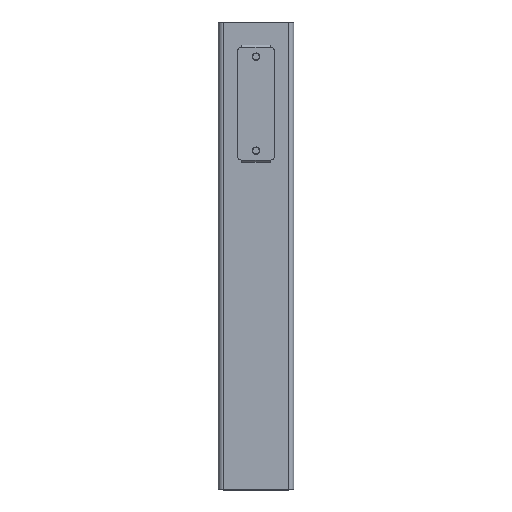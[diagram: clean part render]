
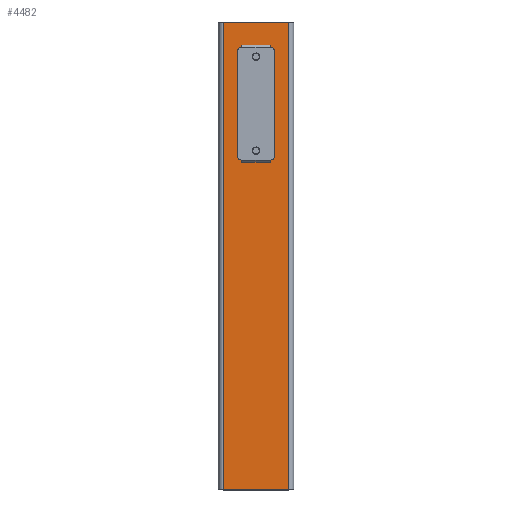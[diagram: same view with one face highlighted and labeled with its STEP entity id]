
A CAD part, top view. The second image highlights one B-rep face of the part: STEP entity #4482.
In plain terms, the highlighted planar face has unit normal (0, 0, 1).
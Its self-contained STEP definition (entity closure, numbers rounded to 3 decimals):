
#998=DIRECTION('',(-1.,0.,0.));
#999=VECTOR('',#998,70.);
#1000=CARTESIAN_POINT('',(35.,498.,25.));
#1001=LINE('',#1000,#999);
#1079=DIRECTION('',(0.,1.,0.));
#1080=VECTOR('',#1079,498.);
#1081=CARTESIAN_POINT('',(35.,0.,25.));
#1082=LINE('',#1081,#1080);
#1083=DIRECTION('',(-1.,0.,0.));
#1084=VECTOR('',#1083,70.);
#1085=CARTESIAN_POINT('',(35.,0.,25.));
#1086=LINE('',#1085,#1084);
#1107=DIRECTION('',(0.,-1.,0.));
#1108=VECTOR('',#1107,2.5);
#1109=CARTESIAN_POINT('',(-15.,351.,25.));
#1110=LINE('',#1109,#1108);
#1111=DIRECTION('',(1.,0.,0.));
#1112=VECTOR('',#1111,30.);
#1113=CARTESIAN_POINT('',(-15.,348.5,25.));
#1114=LINE('',#1113,#1112);
#1115=DIRECTION('',(0.,-1.,0.));
#1116=VECTOR('',#1115,2.5);
#1117=CARTESIAN_POINT('',(15.,351.,25.));
#1118=LINE('',#1117,#1116);
#1119=CARTESIAN_POINT('',(15.,356.,25.));
#1120=DIRECTION('',(0.,0.,1.));
#1121=DIRECTION('',(0.,-1.,0.));
#1122=AXIS2_PLACEMENT_3D('',#1119,#1120,#1121);
#1124=DIRECTION('',(0.,1.,0.));
#1125=VECTOR('',#1124,110.);
#1126=CARTESIAN_POINT('',(20.,356.,25.));
#1127=LINE('',#1126,#1125);
#1128=CARTESIAN_POINT('',(15.,466.,25.));
#1129=DIRECTION('',(0.,0.,1.));
#1130=DIRECTION('',(1.,0.,0.));
#1131=AXIS2_PLACEMENT_3D('',#1128,#1129,#1130);
#1133=DIRECTION('',(0.,1.,0.));
#1134=VECTOR('',#1133,2.5);
#1135=CARTESIAN_POINT('',(15.,471.,25.));
#1136=LINE('',#1135,#1134);
#1137=DIRECTION('',(-1.,0.,0.));
#1138=VECTOR('',#1137,30.);
#1139=CARTESIAN_POINT('',(15.,473.5,25.));
#1140=LINE('',#1139,#1138);
#1141=DIRECTION('',(0.,1.,0.));
#1142=VECTOR('',#1141,2.5);
#1143=CARTESIAN_POINT('',(-15.,471.,25.));
#1144=LINE('',#1143,#1142);
#1145=CARTESIAN_POINT('',(-15.,466.,25.));
#1146=DIRECTION('',(0.,0.,1.));
#1147=DIRECTION('',(0.,1.,0.));
#1148=AXIS2_PLACEMENT_3D('',#1145,#1146,#1147);
#1150=DIRECTION('',(0.,-1.,0.));
#1151=VECTOR('',#1150,110.);
#1152=CARTESIAN_POINT('',(-20.,466.,25.));
#1153=LINE('',#1152,#1151);
#1154=CARTESIAN_POINT('',(-15.,356.,25.));
#1155=DIRECTION('',(0.,0.,1.));
#1156=DIRECTION('',(-1.,0.,0.));
#1157=AXIS2_PLACEMENT_3D('',#1154,#1155,#1156);
#1260=DIRECTION('',(0.,1.,0.));
#1261=VECTOR('',#1260,498.);
#1262=CARTESIAN_POINT('',(-35.,0.,25.));
#1263=LINE('',#1262,#1261);
#2788=CARTESIAN_POINT('',(35.,0.,25.));
#2789=VERTEX_POINT('',#2788);
#2790=CARTESIAN_POINT('',(-35.,0.,25.));
#2792=VERTEX_POINT('',#2790);
#3200=CARTESIAN_POINT('',(35.,498.,25.));
#3201=VERTEX_POINT('',#3200);
#3202=CARTESIAN_POINT('',(-35.,498.,25.));
#3204=VERTEX_POINT('',#3202);
#3350=CARTESIAN_POINT('',(20.,356.,25.));
#3351=CARTESIAN_POINT('',(20.,466.,25.));
#3352=VERTEX_POINT('',#3350);
#3353=VERTEX_POINT('',#3351);
#3354=CARTESIAN_POINT('',(-20.,466.,25.));
#3355=CARTESIAN_POINT('',(-20.,356.,25.));
#3356=VERTEX_POINT('',#3354);
#3357=VERTEX_POINT('',#3355);
#3366=CARTESIAN_POINT('',(15.,471.,25.));
#3367=CARTESIAN_POINT('',(15.,473.5,25.));
#3368=VERTEX_POINT('',#3366);
#3369=VERTEX_POINT('',#3367);
#3370=CARTESIAN_POINT('',(-15.,471.,25.));
#3371=CARTESIAN_POINT('',(-15.,473.5,25.));
#3372=VERTEX_POINT('',#3370);
#3373=VERTEX_POINT('',#3371);
#3378=CARTESIAN_POINT('',(-15.,351.,25.));
#3379=CARTESIAN_POINT('',(-15.,348.5,25.));
#3380=VERTEX_POINT('',#3378);
#3381=VERTEX_POINT('',#3379);
#3382=CARTESIAN_POINT('',(15.,351.,25.));
#3383=CARTESIAN_POINT('',(15.,348.5,25.));
#3384=VERTEX_POINT('',#3382);
#3385=VERTEX_POINT('',#3383);
#4442=CARTESIAN_POINT('',(35.,0.,25.));
#4443=DIRECTION('',(0.,0.,1.));
#4444=DIRECTION('',(-1.,0.,0.));
#4445=AXIS2_PLACEMENT_3D('',#4442,#4443,#4444);
#4446=PLANE('',#4445);
#4447=ORIENTED_EDGE('',*,*,#4406,.F.);
#4449=ORIENTED_EDGE('',*,*,#4448,.F.);
#4451=ORIENTED_EDGE('',*,*,#4450,.T.);
#4453=ORIENTED_EDGE('',*,*,#4452,.T.);
#4454=EDGE_LOOP('',(#4447,#4449,#4451,#4453));
#4455=FACE_OUTER_BOUND('',#4454,.F.);
#4457=ORIENTED_EDGE('',*,*,#4456,.T.);
#4459=ORIENTED_EDGE('',*,*,#4458,.T.);
#4461=ORIENTED_EDGE('',*,*,#4460,.F.);
#4463=ORIENTED_EDGE('',*,*,#4462,.T.);
#4465=ORIENTED_EDGE('',*,*,#4464,.T.);
#4467=ORIENTED_EDGE('',*,*,#4466,.T.);
#4469=ORIENTED_EDGE('',*,*,#4468,.T.);
#4471=ORIENTED_EDGE('',*,*,#4470,.T.);
#4473=ORIENTED_EDGE('',*,*,#4472,.F.);
#4475=ORIENTED_EDGE('',*,*,#4474,.T.);
#4477=ORIENTED_EDGE('',*,*,#4476,.T.);
#4479=ORIENTED_EDGE('',*,*,#4478,.T.);
#4480=EDGE_LOOP('',(#4457,#4459,#4461,#4463,#4465,#4467,#4469,#4471,#4473,#4475,
#4477,#4479));
#4481=FACE_BOUND('',#4480,.F.);
#1123=CIRCLE('',#1122,5.);
#1132=CIRCLE('',#1131,5.);
#1149=CIRCLE('',#1148,5.);
#1158=CIRCLE('',#1157,5.);
#4406=EDGE_CURVE('',#3201,#3204,#1001,.T.);
#4448=EDGE_CURVE('',#2789,#3201,#1082,.T.);
#4450=EDGE_CURVE('',#2789,#2792,#1086,.T.);
#4452=EDGE_CURVE('',#2792,#3204,#1263,.T.);
#4456=EDGE_CURVE('',#3380,#3381,#1110,.T.);
#4458=EDGE_CURVE('',#3381,#3385,#1114,.T.);
#4460=EDGE_CURVE('',#3384,#3385,#1118,.T.);
#4462=EDGE_CURVE('',#3384,#3352,#1123,.T.);
#4464=EDGE_CURVE('',#3352,#3353,#1127,.T.);
#4466=EDGE_CURVE('',#3353,#3368,#1132,.T.);
#4468=EDGE_CURVE('',#3368,#3369,#1136,.T.);
#4470=EDGE_CURVE('',#3369,#3373,#1140,.T.);
#4472=EDGE_CURVE('',#3372,#3373,#1144,.T.);
#4474=EDGE_CURVE('',#3372,#3356,#1149,.T.);
#4476=EDGE_CURVE('',#3356,#3357,#1153,.T.);
#4478=EDGE_CURVE('',#3357,#3380,#1158,.T.);
#4482=ADVANCED_FACE('',(#4455,#4481),#4446,.T.);
